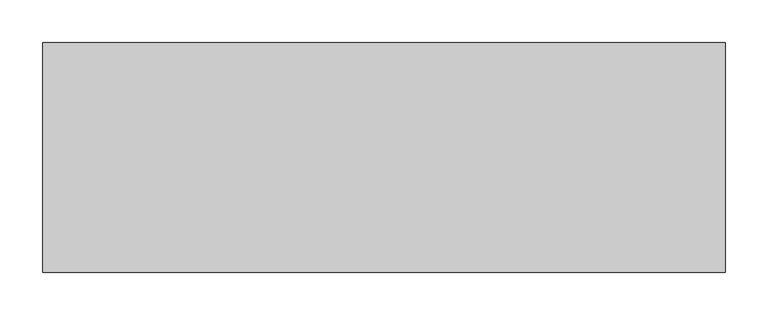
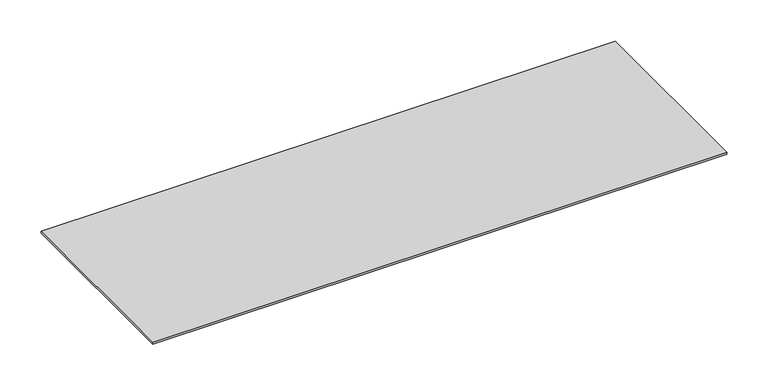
"""IFC4 building model written with IfcOpenShell, lengths in millimetres: proxy geometry, Electrical_Installation_Hager_Blank-Cover-BKA : Electrical_Installation_Hager_Blank-Cover-BKA."""

import ifcopenshell
import ifcopenshell.guid

model = None  # the IFC model being written
_history = None  # IfcOwnerHistory: only IFC2X3 demands one
_inside = {}  # id of a spatial element -> (the spatial element, [elements in it])
_under = {}  # id of a project, library or spatial element -> (it, [spatial elements below it])
_declared = {}  # id of a project -> (the project, [libraries it declares])
_typed = {}  # id of a type object -> (the type object, [elements of that type])
_made_of = {}  # id of a material, layer set ... -> (it, [elements and type objects made of it])


def new_model(schema):
    """Start an empty IFC model of exactly this schema.

    Asked for "IFC4X3", IfcOpenShell would pick the latest addendum, in which some entities
    have other attributes; the version numbers below select the first issue.
    IFC2X3 requires an IfcOwnerHistory on every rooted entity: one is made here for all.
    """
    global model, _history
    if schema == "IFC4X3":
        model = ifcopenshell.file(schema_version=(4, 3, 0, 0))
    else:
        model = ifcopenshell.file(schema=schema)
    _inside.clear()
    _under.clear()
    _declared.clear()
    _typed.clear()
    _made_of.clear()
    _history = None
    if model.schema == "IFC2X3":
        org = make("IfcOrganization", Name="unknown")
        user = make(
            "IfcPersonAndOrganization",
            ThePerson=make("IfcPerson", FamilyName="unknown"),
            TheOrganization=org,
        )
        app = make(
            "IfcApplication",
            ApplicationDeveloper=org,
            Version="unknown",
            ApplicationFullName="unknown",
            ApplicationIdentifier="unknown",
        )
        _history = make(
            "IfcOwnerHistory",
            OwningUser=user,
            OwningApplication=app,
            ChangeAction="ADDED",
            CreationDate=0,
        )
    return model


def make(cls, **values):
    """One entity of the class cls with the attributes given. An attribute that is None is left unset."""
    return model.create_entity(
        cls, **{name: value for name, value in values.items() if value is not None}
    )


def rooted(cls, **values):
    """An entity with a GlobalId (a new one), such as an element, a storey or a relation."""
    return make(cls, GlobalId=ifcopenshell.guid.new(), OwnerHistory=_history, **values)


def si_unit(unit_type, name, prefix=None):
    """IfcSIUnit, for example si_unit("LENGTHUNIT", "METRE", prefix="MILLI")."""
    return make("IfcSIUnit", UnitType=unit_type, Prefix=prefix, Name=name)


def assignment(units):
    """IfcUnitAssignment: the units of a project."""
    return None if units is None else make("IfcUnitAssignment", Units=units)


def point(xyz):
    """IfcCartesianPoint."""
    return None if xyz is None else make("IfcCartesianPoint", Coordinates=xyz)


def direction(xyz):
    """IfcDirection."""
    return None if xyz is None else make("IfcDirection", DirectionRatios=xyz)


def frame(location, z_axis=None, x_axis=None):
    """IfcAxis2Placement3D, a coordinate frame: its origin and axes. An axis left out is left unset."""
    return make(
        "IfcAxis2Placement3D",
        Location=point(location),
        Axis=direction(z_axis),
        RefDirection=direction(x_axis),
    )


def origin():
    """The frame at (0, 0, 0) with its axes left unset."""
    return frame((0.0, 0.0, 0.0))


def place(relative_to, where):
    """IfcLocalPlacement: puts the frame where relative to a parent placement (None: the world)."""
    return make(
        "IfcLocalPlacement", PlacementRelTo=relative_to, RelativePlacement=where
    )


def context(
    kind, dimensions, precision=None, world=None, true_north=None, identifier=None
):
    """IfcGeometricRepresentationContext, for example the 3D "Model" context."""
    return make(
        "IfcGeometricRepresentationContext",
        ContextIdentifier=identifier,
        ContextType=kind,
        CoordinateSpaceDimension=dimensions,
        Precision=precision,
        WorldCoordinateSystem=world,
        TrueNorth=true_north,
    )


def project(units=None, contexts=None):
    """IfcProject with its units and contexts."""
    return rooted(
        "IfcProject",
        Name="project",
        RepresentationContexts=contexts,
        UnitsInContext=assignment(units),
    )


def spatial(cls, under=None, at=None, **own):
    """A site, building, storey or space (cls), placed at a placement, below another one or the project."""
    s = rooted(cls, ObjectPlacement=at, **own)
    if under is not None:
        _under.setdefault(under.id(), (under, []))[1].append(s)
    return s


def polyline(points):
    """IfcPolyline through the points."""
    return make("IfcPolyline", Points=[point(p) for p in points])


def outline(outer, holes=None, kind="AREA"):
    """IfcArbitraryClosedProfileDef: a profile drawn as a closed curve; with holes, ...WithVoids."""
    if holes is None:
        return make("IfcArbitraryClosedProfileDef", ProfileType=kind, OuterCurve=outer)
    return make(
        "IfcArbitraryProfileDefWithVoids",
        ProfileType=kind,
        OuterCurve=outer,
        InnerCurves=holes,
    )


def extrude(swept, where, along, depth):
    """IfcExtrudedAreaSolid: the profile swept, set in the frame where, extruded along a direction by depth."""
    return make(
        "IfcExtrudedAreaSolid",
        SweptArea=swept,
        Position=where,
        ExtrudedDirection=direction(along),
        Depth=depth,
    )


def shape(context_of_items, identifier, shape_type, items):
    """IfcShapeRepresentation: the items that make up one representation, for example the "Body"."""
    return make(
        "IfcShapeRepresentation",
        ContextOfItems=context_of_items,
        RepresentationIdentifier=identifier,
        RepresentationType=shape_type,
        Items=items,
    )


def source(mapping_origin, context_of_items, identifier, shape_type, items):
    """IfcRepresentationMap: a shape defined once, which mapped items show again and again."""
    return make(
        "IfcRepresentationMap",
        MappingOrigin=mapping_origin,
        MappedRepresentation=shape(context_of_items, identifier, shape_type, items),
    )


def transform(
    local_origin,
    x_axis=None,
    y_axis=None,
    z_axis=None,
    scale=None,
    scale2=None,
    scale3=None,
    uniform=True,
):
    """IfcCartesianTransformationOperator3D, or its non-uniform kind. x_axis, y_axis, z_axis: its Axis1, 2, 3."""
    if uniform:
        return make(
            "IfcCartesianTransformationOperator3D",
            Axis1=direction(x_axis),
            Axis2=direction(y_axis),
            LocalOrigin=point(local_origin),
            Scale=scale,
            Axis3=direction(z_axis),
        )
    return make(
        "IfcCartesianTransformationOperator3DnonUniform",
        Axis1=direction(x_axis),
        Axis2=direction(y_axis),
        LocalOrigin=point(local_origin),
        Scale=scale,
        Axis3=direction(z_axis),
        Scale2=scale2,
        Scale3=scale3,
    )


def mapped(mapping_source, mapping_target):
    """IfcMappedItem: shows the shape of a source again, moved by a transform."""
    return make(
        "IfcMappedItem", MappingSource=mapping_source, MappingTarget=mapping_target
    )


def made_of(thing, what):
    """Note that an element or type object is made of a material, layer set ...; save() writes the relation."""
    if what is not None:
        _made_of.setdefault(what.id(), (what, []))[1].append(thing)
    return thing


def element(
    cls,
    number,
    at=None,
    inside=None,
    cuts=None,
    type_object=None,
    material=None,
    context=None,
    identifier="Body",
    shape_type=None,
    held_by="IfcProductDefinitionShape",
    body=None,
    shapes=None,
    **own,
):
    """One element of the class cls, such as IfcWall. Its Tag is "e" and its number.

    at: its placement. inside: the storey or other place that contains it. cuts: it is an
    opening in that element (IfcRelVoidsElement). A single representation is given by context,
    identifier, shape_type and body (its items); several are given by shapes. held_by: the class
    of the entity that holds the representations. save() writes the other relations.
    """
    e = rooted(cls, Tag="e%d" % number, ObjectPlacement=at, **own)
    if body is not None:
        shapes = [shape(context, identifier, shape_type, body)]
    if shapes is not None:
        e.Representation = make(held_by, Representations=shapes)
    if inside is not None:
        _inside.setdefault(inside.id(), (inside, []))[1].append(e)
    if cuts is not None:
        rooted(
            "IfcRelVoidsElement", RelatingBuildingElement=cuts, RelatedOpeningElement=e
        )
    if type_object is not None:
        _typed.setdefault(type_object.id(), (type_object, []))[1].append(e)
    return made_of(e, material)


def aggregate(whole, parts):
    """IfcRelAggregates: a whole, such as a stair, and the parts it consists of."""
    return rooted("IfcRelAggregates", RelatingObject=whole, RelatedObjects=parts)


def save(model, path):
    """Write the relations noted so far, then the file.

    IfcRelAggregates (storeys below a building ...), IfcRelContainedInSpatialStructure (elements
    in a storey), IfcRelDefinesByType, IfcRelAssociatesMaterial and IfcRelDeclares: one each for
    every whole, place, type object, material and project.
    """
    for whole, parts in _under.values():
        aggregate(whole, parts)
    for where, things in _inside.values():
        rooted(
            "IfcRelContainedInSpatialStructure",
            RelatedElements=things,
            RelatingStructure=where,
        )
    for kind, things in _typed.values():
        rooted("IfcRelDefinesByType", RelatedObjects=things, RelatingType=kind)
    for what, things in _made_of.values():
        rooted("IfcRelAssociatesMaterial", RelatedObjects=things, RelatingMaterial=what)
    for by, libraries in _declared.values():
        rooted("IfcRelDeclares", RelatingContext=by, RelatedDefinitions=libraries)
    model.write(path)


def electrical_fixtures_5b61fe5b(model_context):
    return source(origin(), model_context, "Body", "SweptSolid", [
        extrude(outline(polyline([(800.0, 134.75), (800.0, -134.75), (0.0, -134.75), (0.0, 134.75), (800.0, 134.75)])), frame((0.0, 0.0, 10.0), z_axis=(0.0, 0.0, 1.0), x_axis=(1.0, 0.0, 0.0)), (0.0, 0.0, 1.0), 3.0),
    ])


if __name__ == "__main__":
    model = new_model("IFC4")
    model_context = context("Model", 3, world=origin())
    ifc_project = project(units=[si_unit("LENGTHUNIT", "METRE", prefix="MILLI")], contexts=[model_context])
    site = spatial("IfcSite", under=ifc_project)
    building = spatial("IfcBuilding", under=site)
    placement = place(None, origin())
    electrical_fixtures_shape = electrical_fixtures_5b61fe5b(model_context)
    element("IfcBuildingElementProxy", 1, Name="Electrical_Installation_Hager_Blank-Cover-BKA : Electrical_Installation_Hager_Blank-Cover-BKA", ObjectType="Electrical_Installation_Hager_Blank-Cover-BKA : Electrical_Installation_Hager_Blank-Cover-BKA", at=placement, inside=building, context=model_context, shape_type="MappedRepresentation", body=[
        mapped(electrical_fixtures_shape, transform((0.0, 0.0, 0.0), x_axis=(1.0, 0.0, 0.0), y_axis=(0.0, 1.0, 0.0), z_axis=(0.0, 0.0, 1.0))),
    ])
    save(model, "model.ifc")
